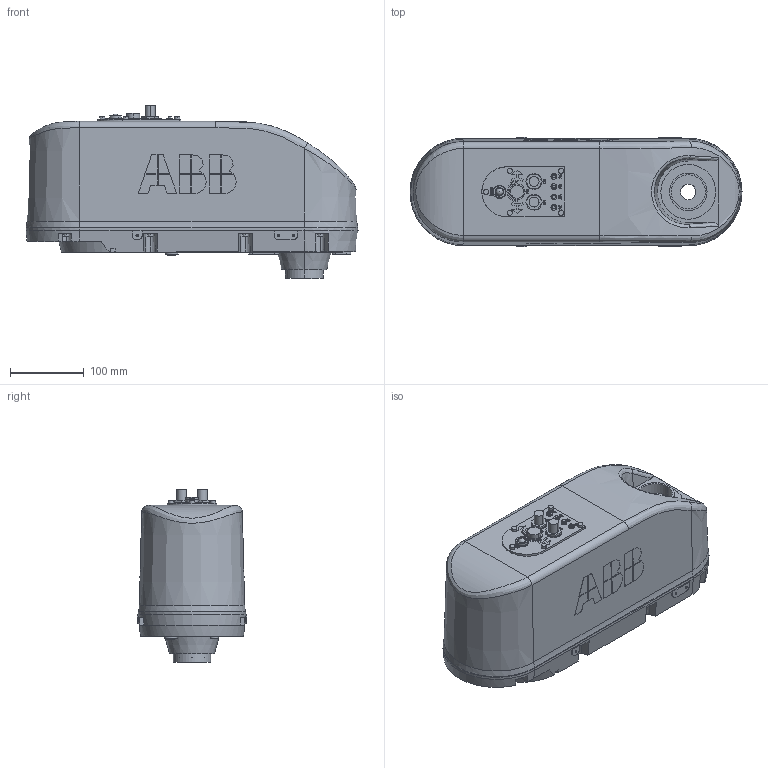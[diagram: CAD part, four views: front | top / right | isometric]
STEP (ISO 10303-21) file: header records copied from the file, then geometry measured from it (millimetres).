
FILE_DESCRIPTION (( 'STEP AP214' ), '1' );
FILE_NAME ('IRB920_6kg-550-145-IP54-STD_OmniCore_rev00_LINK2.STEP', '2022-06-20T05:27:30', ( '' ), ( '' ), 'SwSTEP 2.0', 'SolidWorks 2020', '' );
FILE_SCHEMA (( 'AUTOMOTIVE_DESIGN' ));
Length unit declared in the file: millimetre
Products named in the file (1): IRB920_6kg-550-145-IP54-STD_OmniCore_rev00_LINK2
Bounding box: 451 x 149 x 235.7 mm (x, y, z)
Volume: 9636752.9 mm3; surface area: 320426.1 mm2
Topology: 1 solids, 1 shells, 888 faces, 2267 edges, 1455 vertices
Faces by surface type: plane 510, bspline 155, cylinder 123, cone 93, torus 6, sphere 1
Entity records: 39411 total; most frequent: CARTESIAN_POINT 17084, ORIENTED_EDGE 4438, DIRECTION 3645, EDGE_CURVE 2219, VECTOR 1457, LINE 1457, VERTEX_POINT 1453, AXIS2_PLACEMENT_3D 1094
